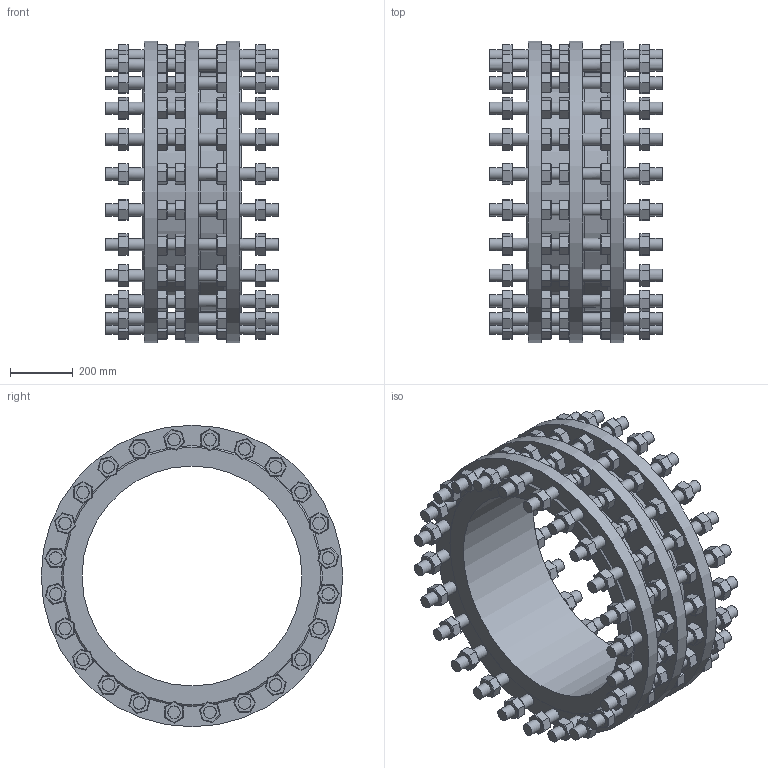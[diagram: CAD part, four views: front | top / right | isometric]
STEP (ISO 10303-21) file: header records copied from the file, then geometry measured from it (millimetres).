
FILE_DESCRIPTION (( 'STEP AP203' ), '1' );
FILE_NAME ('873070000741000.STEP', '2021-11-05T10:02:25', ( '' ), ( '' ), 'SwSTEP 2.0', 'SolidWorks 2020', '' );
FILE_SCHEMA (( 'CONFIG_CONTROL_DESIGN' ));
Products named in the file (1): 873070000741000
Bounding box: 550 x 960 x 960 mm (x, y, z)
Volume: 73355438.8 mm3; surface area: 4976437.1 mm2
Topology: 1 solids, 49 shells, 2851 faces, 6240 edges, 3662 vertices
Faces by surface type: plane 2433, cone 219, cylinder 199
Full cylindrical faces by diameter (mm): 39 x192, 700 x1, 735 x1, 760 x1, 776 x1, 960 x3
Entity records: 71793 total; most frequent: CARTESIAN_POINT 12010, DIRECTION 11982, ORIENTED_EDGE 11318, EDGE_CURVE 5659, VECTOR 5040, LINE 5040, EDGE_LOOP 3638, VERTEX_POINT 3499
